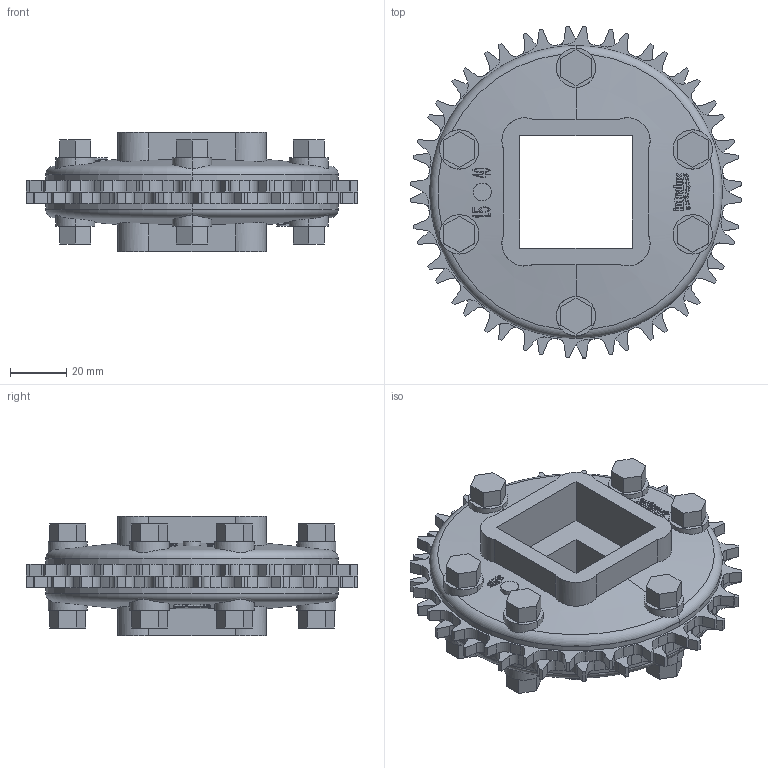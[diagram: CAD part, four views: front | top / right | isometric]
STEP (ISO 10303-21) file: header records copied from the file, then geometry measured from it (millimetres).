
FILE_DESCRIPTION((''),'2;1');
FILE_NAME('S1100_SPL_METAL_46X15_40_SQ_ASM','2008-12-12T',('jmumphre'),(''),'PRO/ENGINEER BY PARAMETRIC TECHNOLOGY CORPORATION, 2008150','PRO/ENGINEER BY PARAMETRIC TECHNOLOGY CORPORATION, 2008150','');
FILE_SCHEMA(('CONFIG_CONTROL_DESIGN'));
Length unit declared in the file: inch
Products named in the file (6): JOINING_PLATE_5X15_40_SQ_AF8; JOINING_PLATE_5X15_40_SQ_AF9; S1100_TP_METAL_46X254_SQ_AF0; S1100_TP_METAL_46X254_SQ_AF1; BOLTS_N_NUTS_3-480X0-958_AF0; S1100_SPL_METAL_46X15_40_SQ_ASM
Assembly tree (5 placements, depth 2):
  S1100_SPL_METAL_46X15_40_SQ_ASM
    JOINING_PLATE_5X15_40_SQ_AF8
    JOINING_PLATE_5X15_40_SQ_AF9
    S1100_TP_METAL_46X254_SQ_AF0
    S1100_TP_METAL_46X254_SQ_AF1
    BOLTS_N_NUTS_3-480X0-958_AF0
Bounding box: 118.13 x 118.13 x 42.37 mm (x, y, z)
Volume: 158358.6 mm3; surface area: 77382 mm2
Topology: 10 solids, 10 shells, 1232 faces, 3444 edges, 2292 vertices
Faces by surface type: plane 734, cylinder 444, cone 50, torus 4
Entity records: 42875 total; most frequent: CARTESIAN_POINT 13003, ORIENTED_EDGE 6888, DIRECTION 5126, EDGE_CURVE 3444, VERTEX_POINT 2292, AXIS2_PLACEMENT_3D 1759, VECTOR 1608, LINE 1608
